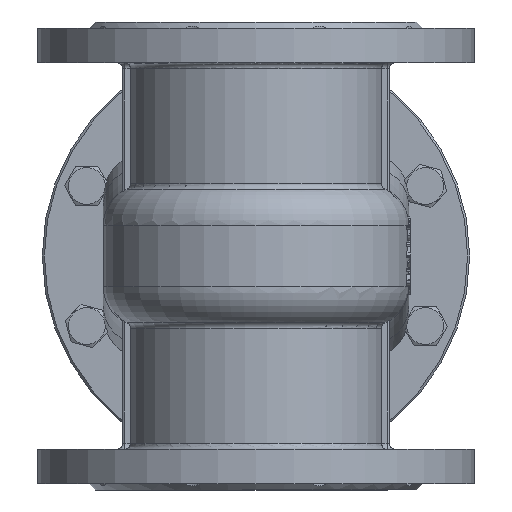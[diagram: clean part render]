
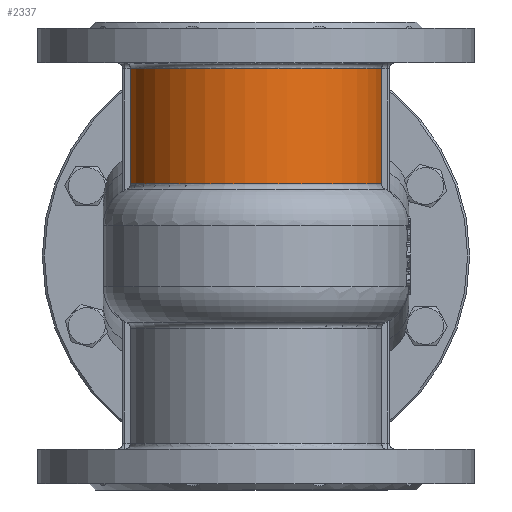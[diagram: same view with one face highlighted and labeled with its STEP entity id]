
A CAD part, front view. The second image highlights one B-rep face of the part: STEP entity #2337.
In plain terms, the highlighted cylindrical face has radius 62.5 mm (diameter 125 mm), a partial arc.
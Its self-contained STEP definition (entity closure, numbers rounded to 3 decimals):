
#2337=ADVANCED_FACE('',(#10090),#10092,.T.);
#10090=FACE_BOUND('',#10091,.T.);
#10091=EDGE_LOOP('',(#16953,#16954,#16955,#16956));
#10092=CYLINDRICAL_SURFACE('',#10093,62.5);
#10093=AXIS2_PLACEMENT_3D('',#10094,#10095,#10096);
#10094=CARTESIAN_POINT('',(0.,0.,95.));
#10095=DIRECTION('',(0.,0.,1.));
#10096=DIRECTION('',(1.,0.,0.));
#16953=ORIENTED_EDGE('',*,*,#20493,.F.);
#16954=ORIENTED_EDGE('',*,*,#20269,.T.);
#16955=ORIENTED_EDGE('',*,*,#20266,.T.);
#16956=ORIENTED_EDGE('',*,*,#20263,.F.);
#20263=EDGE_CURVE('',#22738,#22740,#22741,.F.);
#20266=EDGE_CURVE('',#22743,#22740,#22745,.T.);
#20269=EDGE_CURVE('',#22747,#22743,#22750,.T.);
#20493=EDGE_CURVE('',#22747,#22738,#23128,.T.);
#22738=VERTEX_POINT('',#30773);
#22740=VERTEX_POINT('',#30777);
#22741=LINE('',#30778,#30779);
#22743=VERTEX_POINT('',#30859);
#22745=CIRCLE('',#30935,62.5);
#22747=VERTEX_POINT('',#30940);
#22750=LINE('',#30947,#30948);
#23128=CIRCLE('',#33051,62.5);
#30773=CARTESIAN_POINT('',(61.695,-10.,92.));
#30777=CARTESIAN_POINT('',(61.695,-10.,35.463));
#30778=CARTESIAN_POINT('',(61.695,-10.,35.463));
#30779=VECTOR('',#30780,1.);
#30780=DIRECTION('',(0.,0.,1.));
#30859=CARTESIAN_POINT('',(-61.695,-10.,35.463));
#30935=AXIS2_PLACEMENT_3D('',#30936,#30937,#30938);
#30936=CARTESIAN_POINT('',(0.,0.,35.463));
#30937=DIRECTION('',(0.,0.,1.));
#30938=DIRECTION('',(-0.987,-0.16,0.));
#30940=CARTESIAN_POINT('',(-61.695,-10.,92.));
#30947=CARTESIAN_POINT('',(-61.695,-10.,92.));
#30948=VECTOR('',#30949,1.);
#30949=DIRECTION('',(0.,0.,-1.));
#33051=AXIS2_PLACEMENT_3D('',#33052,#33053,#33054);
#33052=CARTESIAN_POINT('',(0.,0.,92.));
#33053=DIRECTION('',(0.,0.,1.));
#33054=DIRECTION('',(-0.987,-0.16,0.));
